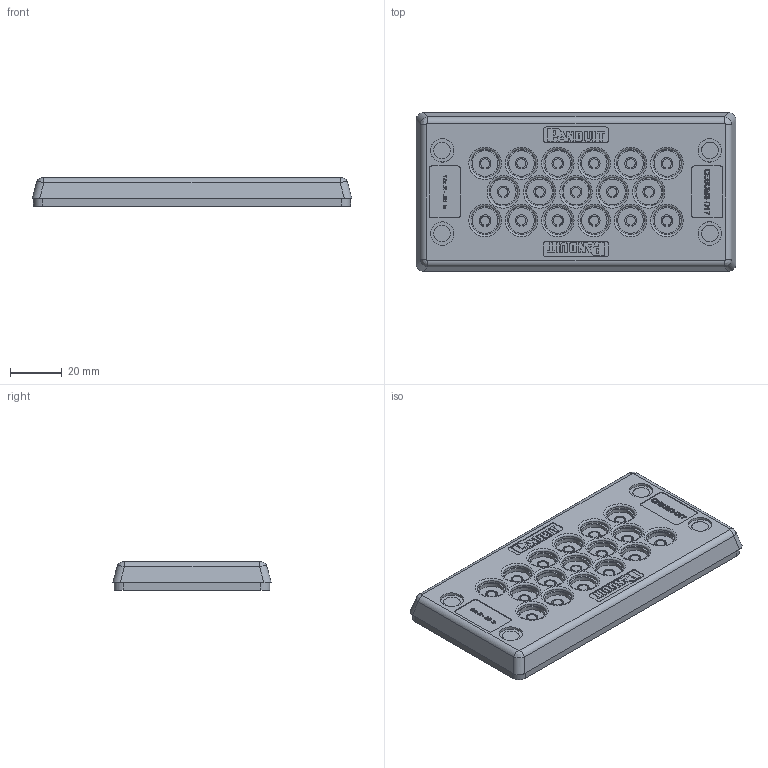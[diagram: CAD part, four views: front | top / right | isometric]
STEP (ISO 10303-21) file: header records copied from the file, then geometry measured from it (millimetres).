
FILE_DESCRIPTION(/* description */ (''),/* implementation_level */ '2;1');
FILE_NAME(/* name */ 'C:\SapWorkDir\Inventor\MP1\ConvertTempPath\87_16_121313_00_A_220602_KDP-Z 16-17.stp',/* time_stamp */ '2022-06-02T09:29:51+02:00',/* author */ ('BAUER'),/* organization */ (''),/* preprocessor_version */ 'ST-DEVELOPER v16.13',/* originating_system */ 'Autodesk Inventor 2018',/* authorisation */ '');
FILE_SCHEMA (('AUTOMOTIVE_DESIGN { 1 0 10303 214 3 1 1 }'));
Products named in the file (1): 121313
Bounding box: 123 x 61 x 11 mm (x, y, z)
Volume: 36545.8 mm3; surface area: 38397.1 mm2
Topology: 2 solids, 2 shells, 2013 faces, 5028 edges, 2965 vertices
Faces by surface type: plane 824, cylinder 695, sphere 211, bspline 153, torus 77, cone 53
Full cylindrical faces by diameter (mm): 6 x3, 6.4 x8, 9.9 x17
Entity records: 59907 total; most frequent: CARTESIAN_POINT 12849, DIRECTION 9811, ORIENTED_EDGE 9502, EDGE_CURVE 4751, AXIS2_PLACEMENT_3D 3553, VERTEX_POINT 2953, LINE 2705, VECTOR 2705
